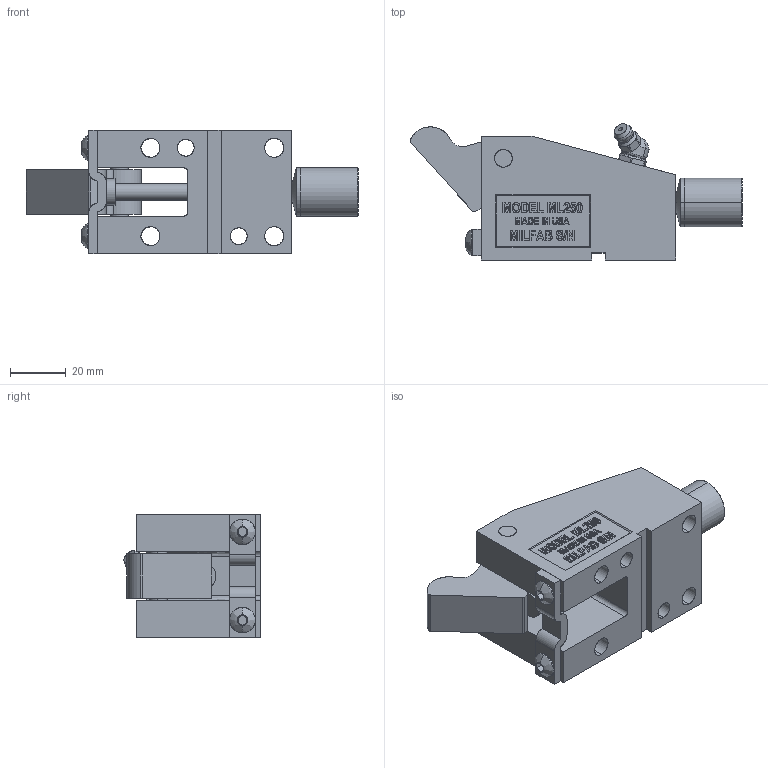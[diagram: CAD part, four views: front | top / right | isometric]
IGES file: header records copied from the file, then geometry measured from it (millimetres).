
Start section: SolidWorks IGES file using analytic representation for surfaces
Global section: file name: Y:\3\ML25045\OPEN\ML25045-O.IGS; native system: SolidWorks 2006 by SolidWorks Corporation; preprocessor: SolidWorks 2006 by SolidWorks Corporation; author: Jim; date: 090124.171213; units: inch
Bounding box: 119.25 x 48.96 x 44.45 mm (x, y, z)
Surface area: 34970.7 mm2 (no closed solid volume)
Topology: 0 solids, 0 shells, 592 faces, 7375 edges, 7373 vertices
Faces by surface type: bspline 460, revolution 132
